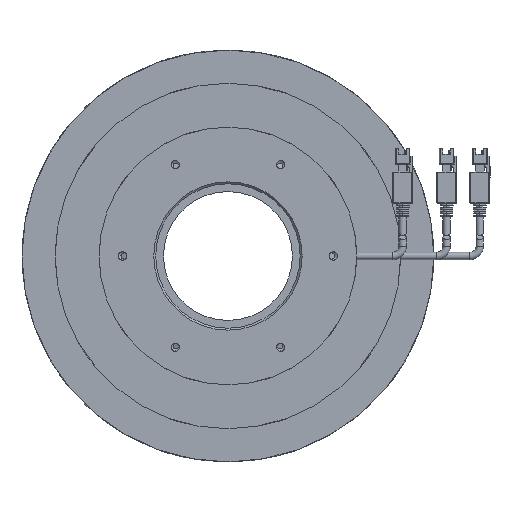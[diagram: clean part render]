
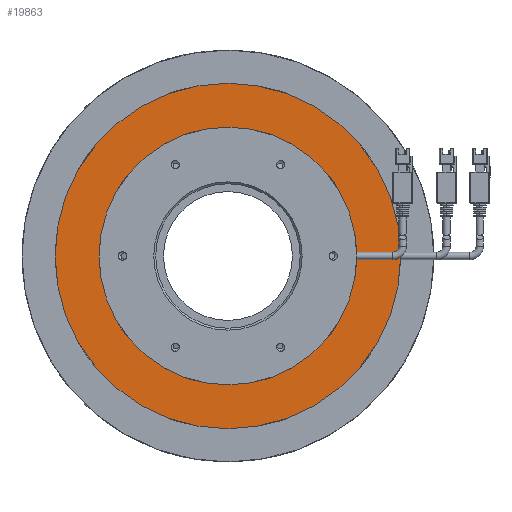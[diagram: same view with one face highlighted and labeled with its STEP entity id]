
A CAD part, front view. The second image highlights one B-rep face of the part: STEP entity #19863.
In plain terms, the highlighted planar face has unit normal (0, -1, 0).
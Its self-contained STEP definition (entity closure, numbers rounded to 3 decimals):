
#1023 = VERTEX_POINT ( 'NONE', #15890 ) ;
#1249 = EDGE_CURVE ( 'NONE', #2498, #1023, #11926, .T. ) ;
#1552 = DIRECTION ( 'NONE',  ( 0., 0., -1. ) ) ;
#1999 = AXIS2_PLACEMENT_3D ( 'NONE', #4506, #18495, #6528 ) ;
#2498 = VERTEX_POINT ( 'NONE', #23699 ) ;
#2673 = EDGE_LOOP ( 'NONE', ( #11915, #7601 ) ) ;
#3946 = AXIS2_PLACEMENT_3D ( 'NONE', #15670, #7686, #1552 ) ;
#4506 = CARTESIAN_POINT ( 'NONE',  ( 0., 13., 0. ) ) ;
#5776 = PLANE ( 'NONE',  #23213 ) ;
#6070 = EDGE_CURVE ( 'NONE', #13502, #20912, #6119, .T. ) ;
#6119 = CIRCLE ( 'NONE', #7209, 66. ) ;
#6133 = DIRECTION ( 'NONE',  ( 0., -1., 0. ) ) ;
#6469 = FACE_OUTER_BOUND ( 'NONE', #2673, .T. ) ;
#6528 = DIRECTION ( 'NONE',  ( 0., 0., -1. ) ) ;
#7209 = AXIS2_PLACEMENT_3D ( 'NONE', #20574, #8620, #22592 ) ;
#7526 = CARTESIAN_POINT ( 'NONE',  ( 0., 13., -66. ) ) ;
#7601 = ORIENTED_EDGE ( 'NONE', *, *, #1249, .T. ) ;
#7686 = DIRECTION ( 'NONE',  ( 0., -1., 0. ) ) ;
#8620 = DIRECTION ( 'NONE',  ( 0., -1., 0. ) ) ;
#8863 = ORIENTED_EDGE ( 'NONE', *, *, #6070, .F. ) ;
#9153 = ORIENTED_EDGE ( 'NONE', *, *, #11703, .F. ) ;
#11703 = EDGE_CURVE ( 'NONE', #20912, #13502, #17923, .T. ) ;
#11820 = FACE_BOUND ( 'NONE', #20510, .T. ) ;
#11827 = DIRECTION ( 'NONE',  ( 0., 0., -1. ) ) ;
#11915 = ORIENTED_EDGE ( 'NONE', *, *, #24600, .T. ) ;
#11926 = CIRCLE ( 'NONE', #3946, 88.5 ) ;
#13502 = VERTEX_POINT ( 'NONE', #7526 ) ;
#15670 = CARTESIAN_POINT ( 'NONE',  ( 0., 13., 0. ) ) ;
#15890 = CARTESIAN_POINT ( 'NONE',  ( 0., 13., -88.5 ) ) ;
#17923 = CIRCLE ( 'NONE', #21398, 66. ) ;
#17926 = CARTESIAN_POINT ( 'NONE',  ( 0., 13., 66. ) ) ;
#18084 = CARTESIAN_POINT ( 'NONE',  ( 0., 13., 0. ) ) ;
#18495 = DIRECTION ( 'NONE',  ( 0., -1., 0. ) ) ;
#19424 = CIRCLE ( 'NONE', #1999, 88.5 ) ;
#19863 = ADVANCED_FACE ( 'NONE', ( #6469, #11820 ), #5776, .T. ) ;
#20097 = DIRECTION ( 'NONE',  ( 0., 0., -1. ) ) ;
#20510 = EDGE_LOOP ( 'NONE', ( #8863, #9153 ) ) ;
#20574 = CARTESIAN_POINT ( 'NONE',  ( 0., 13., 0. ) ) ;
#20912 = VERTEX_POINT ( 'NONE', #17926 ) ;
#21398 = AXIS2_PLACEMENT_3D ( 'NONE', #18084, #6133, #20097 ) ;
#22592 = DIRECTION ( 'NONE',  ( 0., 0., -1. ) ) ;
#23213 = AXIS2_PLACEMENT_3D ( 'NONE', #25698, #23757, #11827 ) ;
#23699 = CARTESIAN_POINT ( 'NONE',  ( 0., 13., 88.5 ) ) ;
#23757 = DIRECTION ( 'NONE',  ( 0., -1., 0. ) ) ;
#24600 = EDGE_CURVE ( 'NONE', #1023, #2498, #19424, .T. ) ;
#25698 = CARTESIAN_POINT ( 'NONE',  ( 0., 13., 0. ) ) ;
